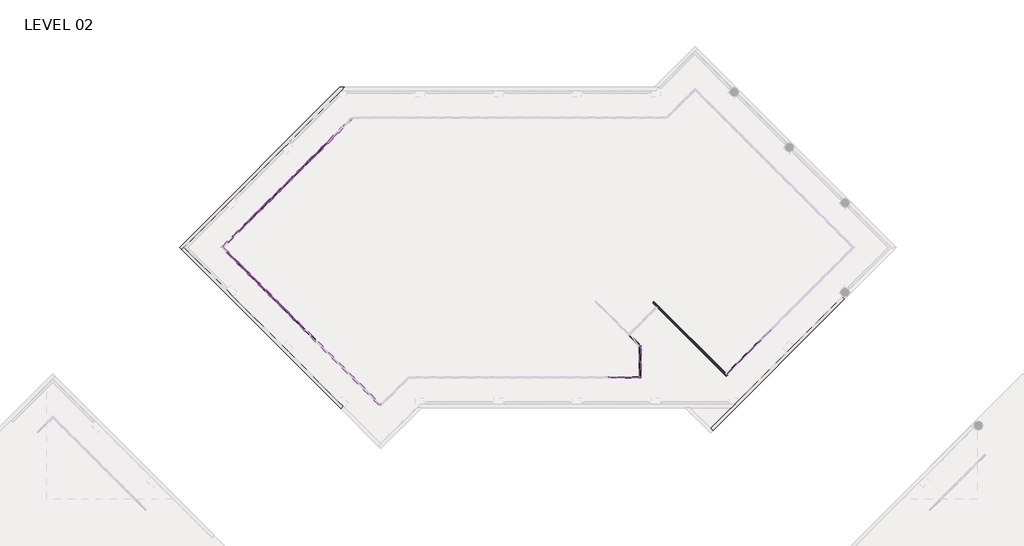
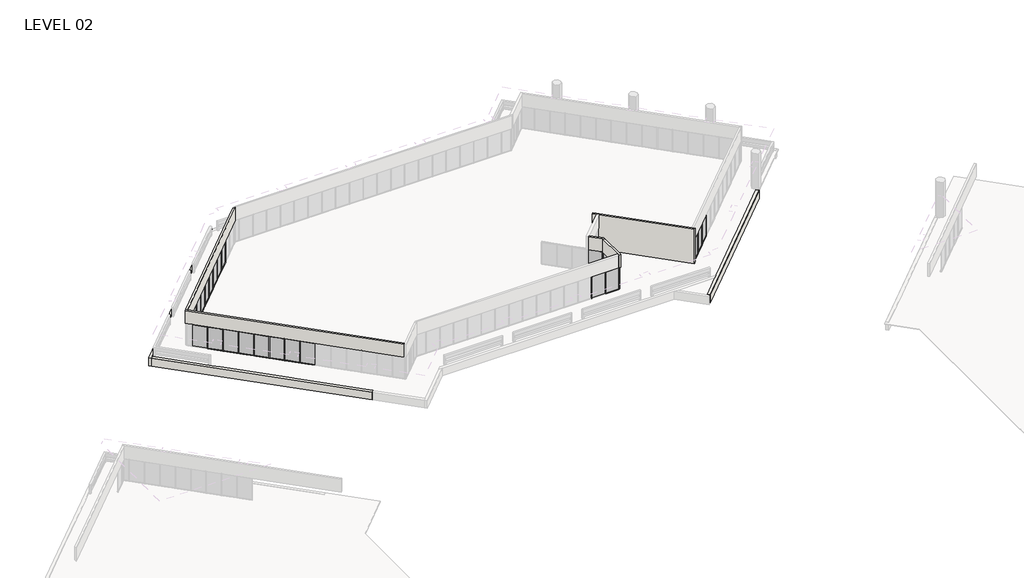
# One storey, part 13 of 19: 74 members, 25 plates, 8 walls.
"""IFC4 building model written with IfcOpenShell, lengths in millimetres."""

from ifc_helpers import new_model, si_unit, frame, origin, place, context, project, spatial, polyline, outline, extrude, faceted_brep, transform, mapped, element, save
from components import member_5247f267, member_57f2eb73, member_e44af9ab, member_800970d4, member_cca1f9e6, plate_67294edd, plate_87d7c655, plate_5a14c350

model = new_model("IFC4")

# Units and contexts
model_context = context("Model", 3, world=origin())
ifc_project = project(units=[si_unit("LENGTHUNIT", "METRE", prefix="MILLI")], contexts=[model_context])

# Site, building, storey
site = spatial("IfcSite", under=ifc_project)
building = spatial("IfcBuilding", under=site)
storey = spatial("IfcBuildingStorey", under=building, Name="LEVEL 02", Elevation=4140.2)

# Members
placement = place(None, origin())
member_shape = member_5247f267(model_context)
element("IfcMember", 1, ObjectType="Rectangular Mullion : 2\" x 4.5\" rectangular", at=placement, inside=storey, context=model_context, shape_type="MappedRepresentation", body=[
    mapped(member_shape, transform((9357.2482055, 114645.256013, 4140.2), x_axis=(0.0, 0.0, -1.0), y_axis=(-0.7071067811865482, 0.7071067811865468, 0.0), z_axis=(0.7071067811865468, 0.7071067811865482, 0.0))),
])
element("IfcMember", 2, ObjectType="Rectangular Mullion : 2\" x 4.5\" rectangular", at=placement, inside=storey, context=model_context, shape_type="MappedRepresentation", body=[
    mapped(member_shape, transform((7201.9867365, 112489.994544, 4140.2), x_axis=(0.0, 0.0, -1.0), y_axis=(-0.7071067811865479, 0.7071067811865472, 0.0), z_axis=(0.7071067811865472, 0.7071067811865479, 0.0))),
])
element("IfcMember", 3, ObjectType="Rectangular Mullion : 2\" x 4.5\" rectangular", at=placement, inside=storey, context=model_context, shape_type="MappedRepresentation", body=[
    mapped(member_shape, transform((6124.3560019, 111412.3638095, 4140.2), x_axis=(0.0, 0.0, -1.0), y_axis=(-0.7071067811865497, 0.7071067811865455, 0.0), z_axis=(0.7071067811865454, 0.7071067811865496, 0.0))),
])
element("IfcMember", 4, ObjectType="Rectangular Mullion : 2\" x 4.5\" rectangular", at=placement, inside=storey, context=model_context, shape_type="MappedRepresentation", body=[
    mapped(member_shape, transform((5046.7252674, 110334.7330749, 4140.2), x_axis=(0.0, 0.0, -1.0), y_axis=(-0.7071067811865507, 0.7071067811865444, 0.0), z_axis=(0.7071067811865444, 0.7071067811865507, 0.0))),
])
element("IfcMember", 5, ObjectType="Rectangular Mullion : 2\" x 4.5\" rectangular", at=placement, inside=storey, context=model_context, shape_type="MappedRepresentation", body=[
    mapped(member_shape, transform((2891.4637983, 108179.4716059, 4140.2), x_axis=(0.0, 0.0, -1.0), y_axis=(-0.7071067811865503, 0.7071067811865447, 0.0), z_axis=(0.7071067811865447, 0.7071067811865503, 0.0))),
])
element("IfcMember", 6, ObjectType="Rectangular Mullion : 2\" x 4.5\" rectangular", at=placement, inside=storey, context=model_context, shape_type="MappedRepresentation", body=[
    mapped(member_shape, transform((1813.8330638, 107101.8408713, 4140.2), x_axis=(0.0, 0.0, -1.0), y_axis=(-0.7071067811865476, 0.7071067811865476, 0.0), z_axis=(0.7071067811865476, 0.7071067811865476, 0.0))),
])
element("IfcMember", 7, ObjectType="Rectangular Mullion : 2\" x 4.5\" rectangular", at=placement, inside=storey, context=model_context, shape_type="MappedRepresentation", body=[
    mapped(member_shape, transform((772.3020264, 103023.4447759, 4140.2), x_axis=(0.0, 0.0, -1.0), y_axis=(-0.707106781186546, -0.707106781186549, 0.0), z_axis=(-0.707106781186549, 0.707106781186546, 0.0))),
])
element("IfcMember", 8, ObjectType="Rectangular Mullion : 2\" x 4.5\" rectangular", at=placement, inside=storey, context=model_context, shape_type="MappedRepresentation", body=[
    mapped(member_shape, transform((2927.5634955, 100868.1833069, 4140.2), x_axis=(0.0, 0.0, -1.0), y_axis=(-0.7071067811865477, -0.7071067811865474, 0.0), z_axis=(-0.7071067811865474, 0.7071067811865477, 0.0))),
])
element("IfcMember", 9, ObjectType="Rectangular Mullion : 2\" x 4.5\" rectangular", at=placement, inside=storey, context=model_context, shape_type="MappedRepresentation", body=[
    mapped(member_shape, transform((5082.8249645, 98712.9218378, 4140.2), x_axis=(0.0, 0.0, -1.0), y_axis=(-0.7071067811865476, -0.7071067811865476, 0.0), z_axis=(-0.7071067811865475, 0.7071067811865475, 0.0))),
])
element("IfcMember", 10, ObjectType="Rectangular Mullion : 2\" x 4.5\" rectangular", at=placement, inside=storey, context=model_context, shape_type="MappedRepresentation", body=[
    mapped(member_shape, transform((7237.7290883, 96558.017714, 4140.2), x_axis=(0.0, 0.0, -1.0), y_axis=(-0.7071067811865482, -0.7071067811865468, 0.0), z_axis=(-0.7071067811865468, 0.7071067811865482, 0.0))),
])
element("IfcMember", 11, ObjectType="Rectangular Mullion : 2\" x 4.5\" rectangular", at=placement, inside=storey, context=model_context, shape_type="MappedRepresentation", body=[
    mapped(member_shape, transform((50258.626106, 94402.4729083, 4140.2), x_axis=(0.0, 0.0, -1.0), y_axis=(-0.7071067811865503, 0.7071067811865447, 0.0), z_axis=(0.7071067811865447, 0.7071067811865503, 0.0))),
])
element("IfcMember", 12, ObjectType="Rectangular Mullion : 2\" x 4.5\" rectangular", at=placement, inside=storey, context=model_context, shape_type="MappedRepresentation", body=[
    mapped(member_shape, transform((736.2023293, 106024.2101368, 4140.2), x_axis=(0.0, 0.0, -1.0), y_axis=(-0.7071067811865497, 0.7071067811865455, 0.0), z_axis=(0.7071067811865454, 0.7071067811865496, 0.0))),
])
element("IfcMember", 13, ObjectType="Rectangular Mullion : 2\" x 4.5\" rectangular", at=placement, inside=storey, context=model_context, shape_type="MappedRepresentation", body=[
    mapped(member_shape, transform((3969.0945329, 109257.1023404, 4140.2), x_axis=(0.0, 0.0, -1.0), y_axis=(-0.7071067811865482, 0.7071067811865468, 0.0), z_axis=(0.7071067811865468, 0.7071067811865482, 0.0))),
])
element("IfcMember", 14, ObjectType="Rectangular Mullion : 2\" x 4.5\" rectangular", at=placement, inside=storey, context=model_context, shape_type="MappedRepresentation", body=[
    mapped(member_shape, transform((8279.617471, 113567.6252785, 4140.2), x_axis=(0.0, 0.0, -1.0), y_axis=(-0.70710678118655, 0.707106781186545, 0.0), z_axis=(0.707106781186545, 0.70710678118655, 0.0))),
])
element("IfcMember", 15, ObjectType="Rectangular Mullion : 2\" x 4.5\" rectangular", at=placement, inside=storey, context=model_context, shape_type="MappedRepresentation", body=[
    mapped(member_shape, transform((1849.9327609, 101945.8140414, 4140.2), x_axis=(0.0, 0.0, -1.0), y_axis=(-0.7071067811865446, -0.7071067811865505, 0.0), z_axis=(-0.7071067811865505, 0.7071067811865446, 0.0))),
])
element("IfcMember", 16, ObjectType="Rectangular Mullion : 2\" x 4.5\" rectangular", at=placement, inside=storey, context=model_context, shape_type="MappedRepresentation", body=[
    mapped(member_shape, transform((4005.19423, 99790.5525723, 4140.2), x_axis=(0.0, 0.0, -1.0), y_axis=(-0.7071067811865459, -0.7071067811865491, 0.0), z_axis=(-0.7071067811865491, 0.7071067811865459, 0.0))),
])
element("IfcMember", 17, ObjectType="Rectangular Mullion : 2\" x 4.5\" rectangular", at=placement, inside=storey, context=model_context, shape_type="MappedRepresentation", body=[
    mapped(member_shape, transform((51336.2568405, 95480.1036428, 4140.2), x_axis=(0.0, 0.0, -1.0), y_axis=(-0.7071067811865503, 0.7071067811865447, 0.0), z_axis=(0.7071067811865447, 0.7071067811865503, 0.0))),
])
element("IfcMember", 18, ObjectType="Rectangular Mullion : 2\" x 4.5\" rectangular", at=placement, inside=storey, context=model_context, shape_type="MappedRepresentation", body=[
    mapped(member_shape, transform((9393.16923, 114681.1770375, 6731.0), x_axis=(0.0, 0.0, 1.0), y_axis=(-0.7071067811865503, 0.7071067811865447, 0.0), z_axis=(-0.7071067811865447, -0.7071067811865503, 0.0))),
])
element("IfcMember", 19, ObjectType="Rectangular Mullion : 2\" x 4.5\" rectangular", at=placement, inside=storey, context=model_context, shape_type="MappedRepresentation", body=[
    mapped(member_shape, transform((7237.9077609, 112525.9155685, 6731.0), x_axis=(0.0, 0.0, 1.0), y_axis=(-0.7071067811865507, 0.7071067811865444, 0.0), z_axis=(-0.7071067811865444, -0.7071067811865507, 0.0))),
])
element("IfcMember", 20, ObjectType="Rectangular Mullion : 2\" x 4.5\" rectangular", at=placement, inside=storey, context=model_context, shape_type="MappedRepresentation", body=[
    mapped(member_shape, transform((6160.2770264, 111448.2848339, 6731.0), x_axis=(0.0, 0.0, 1.0), y_axis=(-0.7071067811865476, 0.7071067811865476, 0.0), z_axis=(-0.7071067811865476, -0.7071067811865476, 0.0))),
])
element("IfcMember", 21, ObjectType="Rectangular Mullion : 2\" x 4.5\" rectangular", at=placement, inside=storey, context=model_context, shape_type="MappedRepresentation", body=[
    mapped(member_shape, transform((5082.6462919, 110370.6540994, 6731.0), x_axis=(0.0, 0.0, 1.0), y_axis=(-0.7071067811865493, 0.7071067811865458, 0.0), z_axis=(-0.7071067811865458, -0.7071067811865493, 0.0))),
])
element("IfcMember", 22, ObjectType="Rectangular Mullion : 2\" x 4.5\" rectangular", at=placement, inside=storey, context=model_context, shape_type="MappedRepresentation", body=[
    mapped(member_shape, transform((2927.3848228, 108215.3926304, 6731.0), x_axis=(0.0, 0.0, 1.0), y_axis=(-0.7071067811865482, 0.7071067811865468, 0.0), z_axis=(-0.7071067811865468, -0.7071067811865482, 0.0))),
])
element("IfcMember", 23, ObjectType="Rectangular Mullion : 2\" x 4.5\" rectangular", at=placement, inside=storey, context=model_context, shape_type="MappedRepresentation", body=[
    mapped(member_shape, transform((1849.7540883, 107137.7618958, 6731.0), x_axis=(0.0, 0.0, 1.0), y_axis=(-0.7071067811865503, 0.7071067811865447, 0.0), z_axis=(-0.7071067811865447, -0.7071067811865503, 0.0))),
])
element("IfcMember", 24, ObjectType="Rectangular Mullion : 2\" x 4.5\" rectangular", at=placement, inside=storey, context=model_context, shape_type="MappedRepresentation", body=[
    mapped(member_shape, transform((736.3810019, 103059.3658004, 6731.0), x_axis=(0.0, 0.0, 1.0), y_axis=(-0.7071067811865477, -0.7071067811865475, 0.0), z_axis=(0.7071067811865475, -0.7071067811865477, 0.0))),
])
element("IfcMember", 25, ObjectType="Rectangular Mullion : 2\" x 4.5\" rectangular", at=placement, inside=storey, context=model_context, shape_type="MappedRepresentation", body=[
    mapped(member_shape, transform((2891.642471, 100904.1043313, 6731.0), x_axis=(0.0, 0.0, 1.0), y_axis=(-0.7071067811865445, -0.7071067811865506, 0.0), z_axis=(0.7071067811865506, -0.7071067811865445, 0.0))),
])
element("IfcMember", 26, ObjectType="Rectangular Mullion : 2\" x 4.5\" rectangular", at=placement, inside=storey, context=model_context, shape_type="MappedRepresentation", body=[
    mapped(member_shape, transform((5046.90394, 98748.8428623, 6731.0), x_axis=(0.0, 0.0, 1.0), y_axis=(-0.7071067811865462, -0.7071067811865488, 0.0), z_axis=(0.7071067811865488, -0.7071067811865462, 0.0))),
])
element("IfcMember", 27, ObjectType="Rectangular Mullion : 2\" x 4.5\" rectangular", at=placement, inside=storey, context=model_context, shape_type="MappedRepresentation", body=[
    mapped(member_shape, transform((50294.5471305, 94438.3939328, 6731.0), x_axis=(0.0, 0.0, 1.0), y_axis=(-0.7071067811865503, 0.7071067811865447, 0.0), z_axis=(-0.7071067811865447, -0.7071067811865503, 0.0))),
])
element("IfcMember", 28, ObjectType="Rectangular Mullion : 2\" x 4.5\" rectangular", at=placement, inside=storey, context=model_context, shape_type="MappedRepresentation", body=[
    mapped(member_shape, transform((772.1233538, 106060.1311613, 6731.0), x_axis=(0.0, 0.0, 1.0), y_axis=(-0.7071067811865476, 0.7071067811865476, 0.0), z_axis=(-0.7071067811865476, -0.7071067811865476, 0.0))),
])
element("IfcMember", 29, ObjectType="Rectangular Mullion : 2\" x 4.5\" rectangular", at=placement, inside=storey, context=model_context, shape_type="MappedRepresentation", body=[
    mapped(member_shape, transform((4005.0155574, 109293.0233649, 6731.0), x_axis=(0.0, 0.0, 1.0), y_axis=(-0.7071067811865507, 0.7071067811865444, 0.0), z_axis=(-0.7071067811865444, -0.7071067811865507, 0.0))),
])
element("IfcMember", 30, ObjectType="Rectangular Mullion : 2\" x 4.5\" rectangular", at=placement, inside=storey, context=model_context, shape_type="MappedRepresentation", body=[
    mapped(member_shape, transform((8315.5384955, 113603.546303, 6731.0), x_axis=(0.0, 0.0, 1.0), y_axis=(-0.7071067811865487, 0.7071067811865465, 0.0), z_axis=(-0.7071067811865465, -0.7071067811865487, 0.0))),
])
element("IfcMember", 31, ObjectType="Rectangular Mullion : 2\" x 4.5\" rectangular", at=placement, inside=storey, context=model_context, shape_type="MappedRepresentation", body=[
    mapped(member_shape, transform((1814.0117365, 101981.7350659, 6731.0), x_axis=(0.0, 0.0, 1.0), y_axis=(-0.7071067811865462, -0.7071067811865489, 0.0), z_axis=(0.7071067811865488, -0.7071067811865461, 0.0))),
])
element("IfcMember", 32, ObjectType="Rectangular Mullion : 2\" x 4.5\" rectangular", at=placement, inside=storey, context=model_context, shape_type="MappedRepresentation", body=[
    mapped(member_shape, transform((3969.2732055, 99826.4735968, 6731.0), x_axis=(0.0, 0.0, 1.0), y_axis=(-0.7071067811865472, -0.7071067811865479, 0.0), z_axis=(0.7071067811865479, -0.7071067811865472, 0.0))),
])
element("IfcMember", 33, ObjectType="Rectangular Mullion : 2\" x 4.5\" rectangular", at=placement, inside=storey, context=model_context, shape_type="MappedRepresentation", body=[
    mapped(member_shape, transform((6124.5346746, 97671.2121278, 6731.0), x_axis=(0.0, 0.0, 1.0), y_axis=(-0.7071067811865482, -0.7071067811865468, 0.0), z_axis=(0.7071067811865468, -0.7071067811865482, 0.0))),
])
element("IfcMember", 34, ObjectType="Rectangular Mullion : 2\" x 4.5\" rectangular", at=placement, inside=storey, context=model_context, shape_type="MappedRepresentation", body=[
    mapped(member_shape, transform((51372.177865, 95516.0246673, 6731.0), x_axis=(0.0, 0.0, 1.0), y_axis=(-0.7071067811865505, 0.7071067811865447, 0.0), z_axis=(-0.7071067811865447, -0.7071067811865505, 0.0))),
])
element("IfcMember", 35, ObjectType="Rectangular Mullion : 2\" x 4.5\" rectangular", at=placement, inside=storey, context=model_context, shape_type="MappedRepresentation", body=[
    mapped(member_shape, transform((49216.9163959, 93360.7631983, 6731.0), x_axis=(0.0, 0.0, 1.0), y_axis=(-0.7071067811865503, 0.7071067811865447, 0.0), z_axis=(-0.7071067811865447, -0.7071067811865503, 0.0))),
])
element("IfcMember", 36, ObjectType="Rectangular Mullion : 2\" x 4.5\" rectangular", at=placement, inside=storey, context=model_context, shape_type="MappedRepresentation", body=[
    mapped(member_shape, transform((38182.55, 91946.6523049, 6731.0), x_axis=(0.0, 0.0, 1.0), y_axis=(0.0, -1.0, 0.0), z_axis=(1.0, 0.0, 0.0))),
])
member_2_shape = member_57f2eb73(model_context)
element("IfcMember", 37, ObjectType="Rectangular Mullion : 2\" x 4.5\" rectangular", at=placement, inside=storey, context=model_context, shape_type="MappedRepresentation", body=[
    mapped(member_2_shape, transform((7201.8080638, 96593.9387385, 6731.0), x_axis=(0.0, 0.0, 1.0), y_axis=(-0.7071067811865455, -0.7071067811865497, 0.0), z_axis=(0.7071067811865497, -0.7071067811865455, 0.0))),
])
element("IfcMember", 38, ObjectType="Rectangular Mullion : 2\" x 4.5\" rectangular", at=placement, inside=storey, context=model_context, shape_type="MappedRepresentation", body=[
    mapped(member_2_shape, transform((6160.4556991, 97635.2911033, 4140.2), x_axis=(0.0, 0.0, -1.0), y_axis=(-0.7071067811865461, -0.707106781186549, 0.0), z_axis=(-0.7071067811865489, 0.707106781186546, 0.0))),
])
member_3_shape = member_e44af9ab(model_context)
element("IfcMember", 39, ObjectType="Rectangular Mullion : 2\" x 4.5\" rectangular", at=placement, inside=storey, context=model_context, shape_type="MappedRepresentation", body=[
    mapped(member_3_shape, transform((9375.2087178, 114663.2165253, 4140.2), x_axis=(-0.7071067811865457, -0.7071067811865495, 0.0), y_axis=(-0.7071067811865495, 0.7071067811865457, 0.0), z_axis=(0.0, 0.0, -1.0))),
])
element("IfcMember", 40, ObjectType="Rectangular Mullion : 2\" x 4.5\" rectangular", at=placement, inside=storey, context=model_context, shape_type="MappedRepresentation", body=[
    mapped(member_3_shape, transform((7219.9472487, 112507.9550562, 4140.2), x_axis=(-0.7071067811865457, -0.7071067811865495, 0.0), y_axis=(-0.7071067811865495, 0.7071067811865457, 0.0), z_axis=(0.0, 0.0, -1.0))),
])
element("IfcMember", 41, ObjectType="Rectangular Mullion : 2\" x 4.5\" rectangular", at=placement, inside=storey, context=model_context, shape_type="MappedRepresentation", body=[
    mapped(member_3_shape, transform((6142.3165142, 111430.3243217, 4140.2), x_axis=(-0.7071067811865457, -0.7071067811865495, 0.0), y_axis=(-0.7071067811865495, 0.7071067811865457, 0.0), z_axis=(0.0, 0.0, -1.0))),
])
element("IfcMember", 42, ObjectType="Rectangular Mullion : 2\" x 4.5\" rectangular", at=placement, inside=storey, context=model_context, shape_type="MappedRepresentation", body=[
    mapped(member_3_shape, transform((5064.6857796, 110352.6935872, 4140.2), x_axis=(-0.7071067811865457, -0.7071067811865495, 0.0), y_axis=(-0.7071067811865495, 0.7071067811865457, 0.0), z_axis=(0.0, 0.0, -1.0))),
])
element("IfcMember", 43, ObjectType="Rectangular Mullion : 2\" x 4.5\" rectangular", at=placement, inside=storey, context=model_context, shape_type="MappedRepresentation", body=[
    mapped(member_3_shape, transform((2909.4243106, 108197.4321181, 4140.2), x_axis=(-0.7071067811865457, -0.7071067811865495, 0.0), y_axis=(-0.7071067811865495, 0.7071067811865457, 0.0), z_axis=(0.0, 0.0, -1.0))),
])
element("IfcMember", 44, ObjectType="Rectangular Mullion : 2\" x 4.5\" rectangular", at=placement, inside=storey, context=model_context, shape_type="MappedRepresentation", body=[
    mapped(member_3_shape, transform((1831.7935761, 107119.8013836, 4140.2), x_axis=(-0.7071067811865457, -0.7071067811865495, 0.0), y_axis=(-0.7071067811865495, 0.7071067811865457, 0.0), z_axis=(0.0, 0.0, -1.0))),
])
element("IfcMember", 45, ObjectType="Rectangular Mullion : 2\" x 4.5\" rectangular", at=placement, inside=storey, context=model_context, shape_type="MappedRepresentation", body=[
    mapped(member_3_shape, transform((754.3415142, 103041.4052881, 4140.2), x_axis=(0.7071067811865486, -0.7071067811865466, 0.0), y_axis=(-0.7071067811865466, -0.7071067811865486, 0.0), z_axis=(0.0, 0.0, -1.0))),
])
element("IfcMember", 46, ObjectType="Rectangular Mullion : 2\" x 4.5\" rectangular", at=placement, inside=storey, context=model_context, shape_type="MappedRepresentation", body=[
    mapped(member_3_shape, transform((2909.6029832, 100886.1438191, 4140.2), x_axis=(0.7071067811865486, -0.7071067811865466, 0.0), y_axis=(-0.7071067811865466, -0.7071067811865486, 0.0), z_axis=(0.0, 0.0, -1.0))),
])
element("IfcMember", 47, ObjectType="Rectangular Mullion : 2\" x 4.5\" rectangular", at=placement, inside=storey, context=model_context, shape_type="MappedRepresentation", body=[
    mapped(member_3_shape, transform((5064.8644523, 98730.88235, 4140.2), x_axis=(0.7071067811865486, -0.7071067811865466, 0.0), y_axis=(-0.7071067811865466, -0.7071067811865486, 0.0), z_axis=(0.0, 0.0, -1.0))),
])
element("IfcMember", 48, ObjectType="Rectangular Mullion : 2\" x 4.5\" rectangular", at=placement, inside=storey, context=model_context, shape_type="MappedRepresentation", body=[
    mapped(member_3_shape, transform((7219.7685761, 96575.9782263, 4140.2), x_axis=(0.7071067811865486, -0.7071067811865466, 0.0), y_axis=(-0.7071067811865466, -0.7071067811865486, 0.0), z_axis=(0.0, 0.0, -1.0))),
])
element("IfcMember", 49, ObjectType="Rectangular Mullion : 2\" x 4.5\" rectangular", at=placement, inside=storey, context=model_context, shape_type="MappedRepresentation", body=[
    mapped(member_3_shape, transform((50276.5866182, 94420.4334206, 4140.2), x_axis=(-0.7071067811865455, -0.7071067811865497, 0.0), y_axis=(-0.7071067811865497, 0.7071067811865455, 0.0), z_axis=(0.0, 0.0, -1.0))),
])
element("IfcMember", 50, ObjectType="Rectangular Mullion : 2\" x 4.5\" rectangular", at=placement, inside=storey, context=model_context, shape_type="MappedRepresentation", body=[
    mapped(member_3_shape, transform((754.1628415, 106042.1706491, 4140.2), x_axis=(-0.7071067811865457, -0.7071067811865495, 0.0), y_axis=(-0.7071067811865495, 0.7071067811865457, 0.0), z_axis=(0.0, 0.0, -1.0))),
])
element("IfcMember", 51, ObjectType="Rectangular Mullion : 2\" x 4.5\" rectangular", at=placement, inside=storey, context=model_context, shape_type="MappedRepresentation", body=[
    mapped(member_3_shape, transform((3987.0550451, 109275.0628526, 4140.2), x_axis=(-0.7071067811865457, -0.7071067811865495, 0.0), y_axis=(-0.7071067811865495, 0.7071067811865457, 0.0), z_axis=(0.0, 0.0, -1.0))),
])
element("IfcMember", 52, ObjectType="Rectangular Mullion : 2\" x 4.5\" rectangular", at=placement, inside=storey, context=model_context, shape_type="MappedRepresentation", body=[
    mapped(member_3_shape, transform((8297.5779832, 113585.5857908, 4140.2), x_axis=(-0.7071067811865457, -0.7071067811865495, 0.0), y_axis=(-0.7071067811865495, 0.7071067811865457, 0.0), z_axis=(0.0, 0.0, -1.0))),
])
element("IfcMember", 53, ObjectType="Rectangular Mullion : 2\" x 4.5\" rectangular", at=placement, inside=storey, context=model_context, shape_type="MappedRepresentation", body=[
    mapped(member_3_shape, transform((1831.9722487, 101963.7745536, 4140.2), x_axis=(0.7071067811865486, -0.7071067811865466, 0.0), y_axis=(-0.7071067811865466, -0.7071067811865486, 0.0), z_axis=(0.0, 0.0, -1.0))),
])
element("IfcMember", 54, ObjectType="Rectangular Mullion : 2\" x 4.5\" rectangular", at=placement, inside=storey, context=model_context, shape_type="MappedRepresentation", body=[
    mapped(member_3_shape, transform((3987.2337178, 99808.5130846, 4140.2), x_axis=(0.7071067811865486, -0.7071067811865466, 0.0), y_axis=(-0.7071067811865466, -0.7071067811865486, 0.0), z_axis=(0.0, 0.0, -1.0))),
])
element("IfcMember", 55, ObjectType="Rectangular Mullion : 2\" x 4.5\" rectangular", at=placement, inside=storey, context=model_context, shape_type="MappedRepresentation", body=[
    mapped(member_3_shape, transform((6142.4951868, 97653.2516155, 4140.2), x_axis=(0.7071067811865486, -0.7071067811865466, 0.0), y_axis=(-0.7071067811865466, -0.7071067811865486, 0.0), z_axis=(0.0, 0.0, -1.0))),
])
element("IfcMember", 56, ObjectType="Rectangular Mullion : 2\" x 4.5\" rectangular", at=placement, inside=storey, context=model_context, shape_type="MappedRepresentation", body=[
    mapped(member_3_shape, transform((51354.2173528, 95498.0641551, 4140.2), x_axis=(-0.7071067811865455, -0.7071067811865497, 0.0), y_axis=(-0.7071067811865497, 0.7071067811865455, 0.0), z_axis=(0.0, 0.0, -1.0))),
])
element("IfcMember", 57, ObjectType="Rectangular Mullion : 2\" x 4.5\" rectangular", at=placement, inside=storey, context=model_context, shape_type="MappedRepresentation", body=[
    mapped(member_3_shape, transform((49198.9558837, 93342.802686, 4140.2), x_axis=(-0.7071067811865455, -0.7071067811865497, 0.0), y_axis=(-0.7071067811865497, 0.7071067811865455, 0.0), z_axis=(0.0, 0.0, -1.0))),
])
element("IfcMember", 58, ObjectType="Rectangular Mullion : 2\" x 4.5\" rectangular", at=placement, inside=storey, context=model_context, shape_type="MappedRepresentation", body=[
    mapped(member_3_shape, transform((38207.95, 91946.6523049, 4140.2), x_axis=(1.0, 0.0, 0.0), y_axis=(0.0, -1.0, 0.0), z_axis=(0.0, 0.0, -1.0))),
])
element("IfcMember", 59, ObjectType="Rectangular Mullion : 2\" x 4.5\" rectangular", at=placement, inside=storey, context=model_context, shape_type="MappedRepresentation", body=[
    mapped(member_3_shape, transform((36683.95, 91946.6523049, 4140.2), x_axis=(1.0, 0.0, 0.0), y_axis=(0.0, -1.0, 0.0), z_axis=(0.0, 0.0, -1.0))),
])
element("IfcMember", 60, ObjectType="Rectangular Mullion : 2\" x 4.5\" rectangular", at=placement, inside=storey, context=model_context, shape_type="MappedRepresentation", body=[
    mapped(member_3_shape, transform((39731.95, 93470.6523049, 4140.2), x_axis=(0.0, 1.0, 0.0), y_axis=(1.0, 0.0, 0.0), z_axis=(0.0, 0.0, -1.0))),
])
member_4_shape = member_800970d4(model_context)
element("IfcMember", 61, ObjectType="Rectangular Mullion : 2\" x 4.5\" rectangular", at=placement, inside=storey, context=model_context, shape_type="MappedRepresentation", body=[
    mapped(member_4_shape, transform((48121.3251492, 92265.1719515, 4140.2), x_axis=(-0.7071067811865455, -0.7071067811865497, 0.0), y_axis=(-0.7071067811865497, 0.7071067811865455, 0.0), z_axis=(0.0, 0.0, -1.0))),
])
element("IfcMember", 62, ObjectType="Rectangular Mullion : 2\" x 4.5\" rectangular", at=placement, inside=storey, context=model_context, shape_type="MappedRepresentation", body=[
    mapped(member_4_shape, transform((39731.95, 91946.6523049, 4140.2), x_axis=(1.0, 0.0, 0.0), y_axis=(0.0, -1.0, 0.0), z_axis=(0.0, 0.0, -1.0))),
])
element("IfcMember", 63, ObjectType="Rectangular Mullion : 2\" x 4.5\" rectangular", at=placement, inside=storey, context=model_context, shape_type="MappedRepresentation", body=[
    mapped(member_4_shape, transform((39731.95, 94994.6523049, 4140.2), x_axis=(0.0, 1.0, 0.0), y_axis=(1.0, 0.0, 0.0), z_axis=(0.0, 0.0, -1.0))),
])
element("IfcMember", 64, ObjectType="Rectangular Mullion : 2\" x 4.5\" rectangular", at=placement, inside=storey, context=model_context, shape_type="MappedRepresentation", body=[
    mapped(member_4_shape, transform((39731.95, 91946.6523049, 6731.0), x_axis=(0.0, -1.0, 0.0), y_axis=(1.0, 0.0, 0.0), z_axis=(0.0, 0.0, 1.0))),
])
element("IfcMember", 65, ObjectType="Rectangular Mullion : 2\" x 4.5\" rectangular", at=placement, inside=storey, context=model_context, shape_type="MappedRepresentation", body=[
    mapped(member_4_shape, transform((39731.95, 94994.6523049, 6731.0), x_axis=(0.7071067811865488, -0.7071067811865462, 0.0), y_axis=(0.7071067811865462, 0.7071067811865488, 0.0), z_axis=(0.0, 0.0, 1.0))),
])
member_5_shape = member_cca1f9e6(model_context)
element("IfcMember", 66, ObjectType="Rectangular Mullion : 2\" x 4.5\" rectangular", at=placement, inside=storey, context=model_context, shape_type="MappedRepresentation", body=[
    mapped(member_5_shape, transform((48157.2461737, 92301.092976, 6731.0), x_axis=(0.0, 0.0, 1.0), y_axis=(-0.7071067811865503, 0.7071067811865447, 0.0), z_axis=(-0.7071067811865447, -0.7071067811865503, 0.0))),
])
element("IfcMember", 67, ObjectType="Rectangular Mullion : 2\" x 4.5\" rectangular", at=placement, inside=storey, context=model_context, shape_type="MappedRepresentation", body=[
    mapped(member_5_shape, transform((39681.15, 91946.6523049, 6731.0), x_axis=(0.0, 0.0, 1.0), y_axis=(0.0, -1.0, 0.0), z_axis=(1.0, 0.0, 0.0))),
])
element("IfcMember", 68, ObjectType="Rectangular Mullion : 2\" x 4.5\" rectangular", at=placement, inside=storey, context=model_context, shape_type="MappedRepresentation", body=[
    mapped(member_5_shape, transform((39731.95, 94943.8523049, 6731.0), x_axis=(0.0, 0.0, 1.0), y_axis=(1.0, 0.0, 0.0), z_axis=(0.0, 1.0, 0.0))),
])
element("IfcMember", 69, ObjectType="Rectangular Mullion : 2\" x 4.5\" rectangular", at=placement, inside=storey, context=model_context, shape_type="MappedRepresentation", body=[
    mapped(member_5_shape, transform((39731.95, 93445.2523049, 6731.0), x_axis=(0.0, 0.0, 1.0), y_axis=(1.0, 0.0, 0.0), z_axis=(0.0, 1.0, 0.0))),
])
element("IfcMember", 70, ObjectType="Rectangular Mullion : 2\" x 4.5\" rectangular", at=placement, inside=storey, context=model_context, shape_type="MappedRepresentation", body=[
    mapped(member_5_shape, transform((49180.9953715, 93324.8421738, 4140.2), x_axis=(0.0, 0.0, -1.0), y_axis=(-0.7071067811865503, 0.7071067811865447, 0.0), z_axis=(0.7071067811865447, 0.7071067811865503, 0.0))),
])
element("IfcMember", 71, ObjectType="Rectangular Mullion : 2\" x 4.5\" rectangular", at=placement, inside=storey, context=model_context, shape_type="MappedRepresentation", body=[
    mapped(member_5_shape, transform((39731.95, 91997.4523049, 4140.2), x_axis=(0.0, 0.0, -1.0), y_axis=(1.0, 0.0, 0.0), z_axis=(0.0, -1.0, 0.0))),
])
element("IfcMember", 72, ObjectType="Rectangular Mullion : 2\" x 4.5\" rectangular", at=placement, inside=storey, context=model_context, shape_type="MappedRepresentation", body=[
    mapped(member_5_shape, transform((38233.35, 91946.6523049, 4140.2), x_axis=(0.0, 0.0, -1.0), y_axis=(0.0, -1.0, 0.0), z_axis=(-1.0, 0.0, 0.0))),
])
element("IfcMember", 73, ObjectType="Rectangular Mullion : 2\" x 4.5\" rectangular", at=placement, inside=storey, context=model_context, shape_type="MappedRepresentation", body=[
    mapped(member_5_shape, transform((39731.95, 93496.0523049, 4140.2), x_axis=(0.0, 0.0, -1.0), y_axis=(1.0, 0.0, 0.0), z_axis=(0.0, -1.0, 0.0))),
])
element("IfcMember", 74, ObjectType="Rectangular Mullion : 2\" x 4.5\" rectangular", at=placement, inside=storey, context=model_context, shape_type="MappedRepresentation", body=[
    mapped(member_5_shape, transform((39696.0289755, 95030.5733294, 4140.2), x_axis=(0.0, 0.0, -1.0), y_axis=(0.7071067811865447, 0.7071067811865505, 0.0), z_axis=(0.7071067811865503, -0.7071067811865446, 0.0))),
])

# Plates
plate_shape = plate_67294edd(model_context)
element("IfcPlate", 75, ObjectType="System Panel : 1/4\" Glass", at=placement, inside=storey, context=model_context, shape_type="MappedRepresentation", body=[
    mapped(plate_shape, transform((8836.3933505, 114124.401158, 4191.0), x_axis=(-0.7071067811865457, -0.7071067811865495, 0.0), y_axis=(0.7071067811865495, -0.7071067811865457, 0.0), z_axis=(0.0, 0.0, 1.0))),
])
element("IfcPlate", 76, ObjectType="System Panel : 1/4\" Glass", at=placement, inside=storey, context=model_context, shape_type="MappedRepresentation", body=[
    mapped(plate_shape, transform((6681.1318814, 111969.139689, 4191.0), x_axis=(-0.7071067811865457, -0.7071067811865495, 0.0), y_axis=(0.7071067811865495, -0.7071067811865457, 0.0), z_axis=(0.0, 0.0, 1.0))),
])
element("IfcPlate", 77, ObjectType="System Panel : 1/4\" Glass", at=placement, inside=storey, context=model_context, shape_type="MappedRepresentation", body=[
    mapped(plate_shape, transform((5603.5011469, 110891.5089544, 4191.0), x_axis=(-0.7071067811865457, -0.7071067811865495, 0.0), y_axis=(0.7071067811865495, -0.7071067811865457, 0.0), z_axis=(0.0, 0.0, 1.0))),
])
element("IfcPlate", 78, ObjectType="System Panel : 1/4\" Glass", at=placement, inside=storey, context=model_context, shape_type="MappedRepresentation", body=[
    mapped(plate_shape, transform((4525.8704124, 109813.8782199, 4191.0), x_axis=(-0.7071067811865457, -0.7071067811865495, 0.0), y_axis=(0.7071067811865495, -0.7071067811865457, 0.0), z_axis=(0.0, 0.0, 1.0))),
])
element("IfcPlate", 79, ObjectType="System Panel : 1/4\" Glass", at=placement, inside=storey, context=model_context, shape_type="MappedRepresentation", body=[
    mapped(plate_shape, transform((2370.6089433, 107658.6167508, 4191.0), x_axis=(-0.7071067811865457, -0.7071067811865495, 0.0), y_axis=(0.7071067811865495, -0.7071067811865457, 0.0), z_axis=(0.0, 0.0, 1.0))),
])
element("IfcPlate", 80, ObjectType="System Panel : 1/4\" Glass", at=placement, inside=storey, context=model_context, shape_type="MappedRepresentation", body=[
    mapped(plate_shape, transform((1292.9782088, 106580.9860163, 4191.0), x_axis=(-0.7071067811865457, -0.7071067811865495, 0.0), y_axis=(0.7071067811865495, -0.7071067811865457, 0.0), z_axis=(0.0, 0.0, 1.0))),
])
element("IfcPlate", 81, ObjectType="System Panel : 1/4\" Glass", at=placement, inside=storey, context=model_context, shape_type="MappedRepresentation", body=[
    mapped(plate_shape, transform((1293.1568814, 102502.5899209, 4191.0), x_axis=(0.7071067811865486, -0.7071067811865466, 0.0), y_axis=(0.7071067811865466, 0.7071067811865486, 0.0), z_axis=(0.0, 0.0, 1.0))),
])
element("IfcPlate", 82, ObjectType="System Panel : 1/4\" Glass", at=placement, inside=storey, context=model_context, shape_type="MappedRepresentation", body=[
    mapped(plate_shape, transform((3448.4183505, 100347.3284518, 4191.0), x_axis=(0.7071067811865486, -0.7071067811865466, 0.0), y_axis=(0.7071067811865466, 0.7071067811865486, 0.0), z_axis=(0.0, 0.0, 1.0))),
])
element("IfcPlate", 83, ObjectType="System Panel : 1/4\" Glass", at=placement, inside=storey, context=model_context, shape_type="MappedRepresentation", body=[
    mapped(plate_shape, transform((5603.6798195, 98192.0669828, 4191.0), x_axis=(0.7071067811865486, -0.7071067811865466, 0.0), y_axis=(0.7071067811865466, 0.7071067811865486, 0.0), z_axis=(0.0, 0.0, 1.0))),
])
element("IfcPlate", 84, ObjectType="System Panel : 1/4\" Glass", at=placement, inside=storey, context=model_context, shape_type="MappedRepresentation", body=[
    mapped(plate_shape, transform((7758.5839433, 96037.162859, 4191.0), x_axis=(0.7071067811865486, -0.7071067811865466, 0.0), y_axis=(0.7071067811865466, 0.7071067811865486, 0.0), z_axis=(0.0, 0.0, 1.0))),
])
element("IfcPlate", 85, ObjectType="System Panel : 1/4\" Glass", at=placement, inside=storey, context=model_context, shape_type="MappedRepresentation", body=[
    mapped(plate_shape, transform((49737.771251, 93881.6180533, 4191.0), x_axis=(-0.7071067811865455, -0.7071067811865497, 0.0), y_axis=(0.7071067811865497, -0.7071067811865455, 0.0), z_axis=(0.0, 0.0, 1.0))),
])
element("IfcPlate", 86, ObjectType="System Panel : 1/4\" Glass", at=placement, inside=storey, context=model_context, shape_type="MappedRepresentation", body=[
    mapped(plate_shape, transform((215.3474743, 105503.3552818, 4191.0), x_axis=(-0.7071067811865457, -0.7071067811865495, 0.0), y_axis=(0.7071067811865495, -0.7071067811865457, 0.0), z_axis=(0.0, 0.0, 1.0))),
])
element("IfcPlate", 87, ObjectType="System Panel : 1/4\" Glass", at=placement, inside=storey, context=model_context, shape_type="MappedRepresentation", body=[
    mapped(plate_shape, transform((215.5261469, 103580.2206554, 4191.0), x_axis=(0.7071067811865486, -0.7071067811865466, 0.0), y_axis=(0.7071067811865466, 0.7071067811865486, 0.0), z_axis=(0.0, 0.0, 1.0))),
])
element("IfcPlate", 88, ObjectType="System Panel : 1/4\" Glass", at=placement, inside=storey, context=model_context, shape_type="MappedRepresentation", body=[
    mapped(plate_shape, transform((3448.2396778, 108736.2474854, 4191.0), x_axis=(-0.7071067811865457, -0.7071067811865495, 0.0), y_axis=(0.7071067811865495, -0.7071067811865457, 0.0), z_axis=(0.0, 0.0, 1.0))),
])
element("IfcPlate", 89, ObjectType="System Panel : 1/4\" Glass", at=placement, inside=storey, context=model_context, shape_type="MappedRepresentation", body=[
    mapped(plate_shape, transform((7758.762616, 113046.7704235, 4191.0), x_axis=(-0.7071067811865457, -0.7071067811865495, 0.0), y_axis=(0.7071067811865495, -0.7071067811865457, 0.0), z_axis=(0.0, 0.0, 1.0))),
])
element("IfcPlate", 90, ObjectType="System Panel : 1/4\" Glass", at=placement, inside=storey, context=model_context, shape_type="MappedRepresentation", body=[
    mapped(plate_shape, transform((2370.787616, 101424.9591864, 4191.0), x_axis=(0.7071067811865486, -0.7071067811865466, 0.0), y_axis=(0.7071067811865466, 0.7071067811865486, 0.0), z_axis=(0.0, 0.0, 1.0))),
])
element("IfcPlate", 91, ObjectType="System Panel : 1/4\" Glass", at=placement, inside=storey, context=model_context, shape_type="MappedRepresentation", body=[
    mapped(plate_shape, transform((4526.049085, 99269.6977173, 4191.0), x_axis=(0.7071067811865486, -0.7071067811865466, 0.0), y_axis=(0.7071067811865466, 0.7071067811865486, 0.0), z_axis=(0.0, 0.0, 1.0))),
])
element("IfcPlate", 92, ObjectType="System Panel : 1/4\" Glass", at=placement, inside=storey, context=model_context, shape_type="MappedRepresentation", body=[
    mapped(plate_shape, transform((50815.4019855, 94959.2487878, 4191.0), x_axis=(-0.7071067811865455, -0.7071067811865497, 0.0), y_axis=(0.7071067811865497, -0.7071067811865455, 0.0), z_axis=(0.0, 0.0, 1.0))),
])
element("IfcPlate", 93, ObjectType="System Panel : 1/4\" Glass", at=placement, inside=storey, context=model_context, shape_type="MappedRepresentation", body=[
    mapped(plate_shape, transform((37445.95, 91946.6523049, 4191.0), x_axis=(1.0, 0.0, 0.0), y_axis=(0.0, 1.0, 0.0), z_axis=(0.0, 0.0, 1.0))),
])
plate_2_shape = plate_87d7c655(model_context)
element("IfcPlate", 94, ObjectType="System Panel : 1/4\" Glass", at=placement, inside=storey, context=model_context, shape_type="MappedRepresentation", body=[
    mapped(plate_2_shape, transform((6681.1318814, 97114.6149209, 4191.0), x_axis=(0.7071067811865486, -0.7071067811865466, 0.0), y_axis=(0.7071067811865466, 0.7071067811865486, 0.0), z_axis=(0.0, 0.0, 1.0))),
])
plate_3_shape = plate_5a14c350(model_context)
element("IfcPlate", 95, ObjectType="System Panel : 1/4\" Glass", at=placement, inside=storey, context=model_context, shape_type="MappedRepresentation", body=[
    mapped(plate_3_shape, transform((48669.1207726, 92812.9675749, 4191.0), x_axis=(-0.7071067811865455, -0.7071067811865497, 0.0), y_axis=(0.7071067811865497, -0.7071067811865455, 0.0), z_axis=(0.0, 0.0, 1.0))),
])
element("IfcPlate", 96, ObjectType="System Panel : 1/4\" Glass", at=placement, inside=storey, context=model_context, shape_type="MappedRepresentation", body=[
    mapped(plate_3_shape, transform((39731.95, 92721.3523049, 4191.0), x_axis=(0.0, 1.0, 0.0), y_axis=(-1.0, 0.0, 0.0), z_axis=(0.0, 0.0, 1.0))),
])
element("IfcPlate", 97, ObjectType="System Panel : 1/4\" Glass", at=placement, inside=storey, context=model_context, shape_type="MappedRepresentation", body=[
    mapped(plate_3_shape, transform((39731.95, 94219.9523049, 4191.0), x_axis=(0.0, 1.0, 0.0), y_axis=(-1.0, 0.0, 0.0), z_axis=(0.0, 0.0, 1.0))),
])
element("IfcPlate", 98, ObjectType="System Panel : 1/4\" Glass", at=placement, inside=storey, context=model_context, shape_type="MappedRepresentation", body=[
    mapped(plate_3_shape, transform((38957.25, 91946.6523049, 4191.0), x_axis=(1.0, 0.0, 0.0), y_axis=(0.0, 1.0, 0.0), z_axis=(0.0, 0.0, 1.0))),
])
element("IfcPlate", 99, ObjectType="System Panel : 1/4\" Glass", at=placement, inside=storey, context=model_context, shape_type="MappedRepresentation", body=[
    mapped(plate_3_shape, transform((39184.1543766, 95542.4479283, 4191.0), x_axis=(-0.7071067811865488, 0.7071067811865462, 0.0), y_axis=(-0.7071067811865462, -0.7071067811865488, 0.0), z_axis=(0.0, 0.0, 1.0))),
])

# Walls
element("IfcWall", 100, ObjectType="01-CONCRETE-12", at=placement, inside=storey, context=model_context, shape_type="Brep", body=[
    faceted_brep([(-4697.4431959, 104326.351158, 3225.8), (-4481.917049, 104541.8773049, 3225.8), (-340.7210245, 108683.0733294, 3225.8), (268.8789755, 109292.6733294, 3225.8), (5047.2539755, 114071.0483294, 3225.8), (5656.8539755, 114680.6483294, 3225.8), (10405.4710245, 119429.2653784, 3225.8), (10754.907951, 119778.7023049, 3225.8), (11059.707951, 120083.5023049, 3225.8), (11059.707951, 120083.5023049, 4140.2), (10754.907951, 119778.7023049, 4140.2), (10405.4710245, 119429.2653784, 4140.2), (5656.8539755, 114680.6483294, 4140.2), (5047.2539755, 114071.0483294, 4140.2), (268.8789755, 109292.6733294, 4140.2), (-340.7210245, 108683.0733294, 4140.2), (-4481.917049, 104541.8773049, 4140.2), (-4697.4431959, 104326.351158, 4140.2), (-4912.9693428, 104541.8773049, 3225.8), (-4912.9693428, 104541.8773049, 4140.2), (10628.6556572, 120083.5023049, 4140.2), (10628.6556572, 120083.5023049, 3225.8)], [[[0, 1, 2, 3, 4, 5, 6, 7, 8, 9, 10, 11, 12, 13, 14, 15, 16, 17]], [[18, 19, 20, 21]], [[8, 7, 6, 5, 4, 3, 2, 1, 0, 18, 21]], [[17, 16, 15, 14, 13, 12, 11, 10, 9, 20, 19]], [[9, 8, 21, 20]], [[0, 17, 19, 18]]]),
])
element("IfcWall", 101, ObjectType="01-CONCRETE-12", at=placement, inside=storey, context=model_context, shape_type="Brep", body=[
    faceted_brep([(59328.6107796, 99736.6710356, 3225.8), (54604.6460245, 95012.7062804, 3225.8), (53995.0460245, 94403.1062804, 3225.8), (49246.4289755, 89654.4892315, 3225.8), (48896.992049, 89305.0523049, 3225.8), (48592.192049, 89000.2523049, 3225.8), (46570.8413596, 86978.9016155, 3225.8), (46570.8413596, 86978.9016155, 4140.2), (48592.192049, 89000.2523049, 4140.2), (48896.992049, 89305.0523049, 4140.2), (49246.4289755, 89654.4892315, 4140.2), (53995.0460245, 94403.1062804, 4140.2), (54604.6460245, 95012.7062804, 4140.2), (59328.6107796, 99736.6710356, 4140.2), (59544.1369265, 99521.1448887, 3225.8), (59544.1369265, 99521.1448887, 4140.2), (46786.3675065, 86763.3754686, 4140.2), (46786.3675065, 86763.3754686, 3225.8)], [[[0, 1, 2, 3, 4, 5, 6, 7, 8, 9, 10, 11, 12, 13]], [[14, 15, 16, 17]], [[6, 5, 4, 3, 2, 1, 0, 14, 17]], [[13, 12, 11, 10, 9, 8, 7, 16, 15]], [[7, 6, 17, 16]], [[0, 13, 15, 14]]]),
])
element("IfcWall", 102, ObjectType="01-CONCRETE-12", at=placement, inside=storey, context=model_context, shape_type="Brep", body=[
    faceted_brep([(10955.5551224, 89104.4051335, 3225.8), (10435.2289755, 89624.7312804, 3225.8), (5656.8539755, 94403.1062804, 3225.8), (5047.2539755, 95012.7062804, 3225.8), (268.8789755, 99791.0812804, 3225.8), (-340.7210245, 100400.6812804, 3225.8), (-4481.917049, 104541.8773049, 3225.8), (-4481.917049, 104541.8773049, 4140.2), (-340.7210245, 100400.6812804, 4140.2), (268.8789755, 99791.0812804, 4140.2), (5047.2539755, 95012.7062804, 4140.2), (5656.8539755, 94403.1062804, 4140.2), (10435.2289755, 89624.7312804, 4140.2), (10955.5551224, 89104.4051335, 4140.2), (10740.0289755, 88888.8789866, 3225.8), (10740.0289755, 88888.8789866, 4140.2), (-4697.4431959, 104326.351158, 4140.2), (-4697.4431959, 104326.351158, 3225.8)], [[[0, 1, 2, 3, 4, 5, 6, 7, 8, 9, 10, 11, 12, 13]], [[14, 15, 16, 17]], [[6, 5, 4, 3, 2, 1, 0, 14, 17]], [[13, 12, 11, 10, 9, 8, 7, 16, 15]], [[0, 13, 15, 14]], [[7, 6, 17, 16]]]),
])
element("IfcWall", 103, ObjectType="8\" Existing Wall", at=placement, inside=storey, context=model_context, shape_type="SweptSolid", body=[
    extrude(outline(polyline([(41080.142049, 99306.3550517), (48233.5783507, 92152.91875), (48089.8942528, 92009.234652), (40936.457951, 99162.6709538), (41080.142049, 99306.3550517)])), frame((0.0, 0.0, 4140.2), z_axis=(0.0, 0.0, 1.0), x_axis=(1.0, 0.0, 0.0)), (0.0, 0.0, 1.0), 4013.2),
])
element("IfcWall", 104, ObjectType="8\" Existing Wall", at=placement, inside=storey, context=model_context, shape_type="Brep", body=[
    faceted_brep([(38654.3192655, 95928.5989415, 6731.0), (39630.35, 94952.568207, 6731.0), (39833.55, 94749.368207, 6731.0), (39833.55, 94749.368207, 8229.6), (39630.35, 94952.568207, 8229.6), (38654.3192655, 95928.5989415, 8229.6), (38798.0033634, 96072.2830395, 6731.0), (38798.0033634, 96072.2830395, 8229.6), (39833.55, 95036.7364029, 8229.6), (39833.55, 95036.7364029, 6731.0)], [[[0, 1, 2, 3, 4, 5]], [[6, 7, 8, 9]], [[2, 1, 0, 6, 9]], [[5, 4, 3, 8, 7]], [[0, 5, 7, 6]], [[3, 2, 9, 8]]]),
])
element("IfcWall", 105, ObjectType="8\" Existing Wall", at=placement, inside=storey, context=model_context, shape_type="Brep", body=[
    faceted_brep([(39630.35, 94952.568207, 6731.0), (39630.35, 92048.2523049, 6731.0), (39630.35, 91845.0523049, 6731.0), (39630.35, 91845.0523049, 8229.6), (39630.35, 92048.2523049, 8229.6), (39630.35, 94952.568207, 8229.6), (39833.55, 94749.368207, 6731.0), (39833.55, 94749.368207, 8229.6), (39833.55, 91845.0523049, 8229.6), (39833.55, 91845.0523049, 6731.0)], [[[0, 1, 2, 3, 4, 5]], [[6, 7, 8, 9]], [[2, 1, 0, 6, 9]], [[5, 4, 3, 8, 7]], [[0, 5, 7, 6]], [[3, 2, 9, 8]]]),
])
element("IfcWall", 106, ObjectType="8\" Existing Wall", at=placement, inside=storey, context=model_context, shape_type="Brep", body=[
    faceted_brep([(14585.95, 89353.4809003, 6731.0), (-602.4464047, 104541.8773049, 6731.0), (-746.1305026, 104685.5614029, 6731.0), (-746.1305026, 104685.5614029, 8229.6), (-602.4464047, 104541.8773049, 8229.6), (14585.95, 89353.4809003, 8229.6), (14442.2659021, 89209.7968023, 6731.0), (14442.2659021, 89209.7968023, 8229.6), (-889.8146005, 104541.8773049, 8229.6), (-889.8146005, 104541.8773049, 6731.0)], [[[0, 1, 2, 3, 4, 5]], [[6, 7, 8, 9]], [[2, 1, 0, 6, 9]], [[5, 4, 3, 8, 7]], [[0, 5, 7, 6]], [[3, 2, 9, 8]]]),
])
element("IfcWall", 107, ObjectType="8\" Existing Wall", at=placement, inside=storey, context=model_context, shape_type="SweptSolid", body=[
    extrude(outline(polyline([(11891.1785953, 117035.5023049), (-602.4464047, 104541.8773049), (-746.1305026, 104685.5614029), (11603.8103995, 117035.5023049), (11891.1785953, 117035.5023049)])), frame((0.0, 0.0, 6731.0), z_axis=(0.0, 0.0, 1.0), x_axis=(1.0, 0.0, 0.0)), (0.0, 0.0, 1.0), 1498.6),
])

save(model, "model.ifc")
